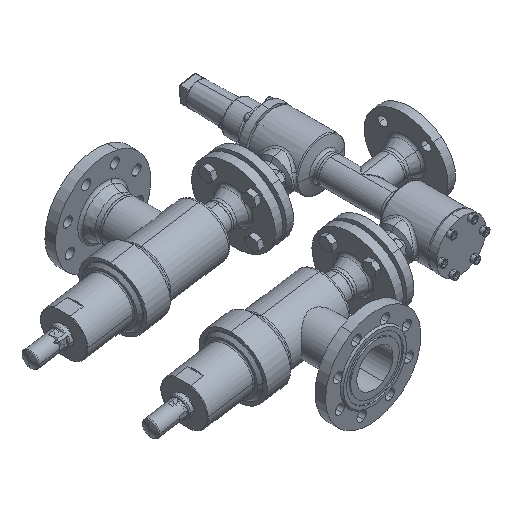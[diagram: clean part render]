
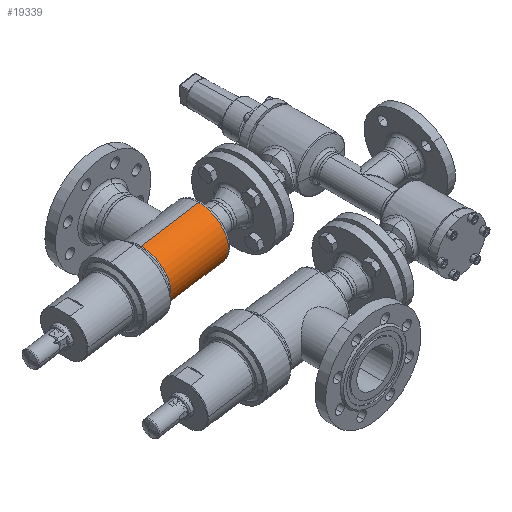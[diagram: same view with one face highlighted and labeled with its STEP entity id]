
A CAD part, isometric view. The second image highlights one B-rep face of the part: STEP entity #19339.
In plain terms, the highlighted cylindrical face has radius 50 mm (diameter 100 mm), a partial arc.
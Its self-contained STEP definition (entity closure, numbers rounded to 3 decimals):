
#811 = CARTESIAN_POINT ( 'NONE',  ( 50., 113.049, 0. ) ) ;
#17462 = CARTESIAN_POINT ( 'NONE',  ( 50., 0.883, 0. ) ) ;
#34705 = EDGE_CURVE ( 'NONE', #32480, #35177, #39997, .T. ) ;
#35177 = VERTEX_POINT ( 'NONE', #40349 ) ;
#19339 = ADVANCED_FACE ( 'NONE', ( #11153 ), #11202, .T. ) ;
#37056 = CIRCLE ( 'NONE', #37057, 50. ) ;
#37057 = AXIS2_PLACEMENT_3D ( 'NONE', #37058, #37059, #37060 ) ;
#37058 = CARTESIAN_POINT ( 'NONE',  ( 0., 0.883, 0. ) ) ;
#37059 = DIRECTION ( 'NONE',  ( 0., 1., 0. ) ) ;
#37060 = DIRECTION ( 'NONE',  ( -1., 0., 0. ) ) ;
#4316 = CIRCLE ( 'NONE', #4317, 50. ) ;
#4317 = AXIS2_PLACEMENT_3D ( 'NONE', #4318, #4319, #4320 ) ;
#4318 = CARTESIAN_POINT ( 'NONE',  ( 0., 113.049, 0. ) ) ;
#4319 = DIRECTION ( 'NONE',  ( 0., 1., 0. ) ) ;
#4320 = DIRECTION ( 'NONE',  ( -1., 0., 0. ) ) ;
#37095 = CARTESIAN_POINT ( 'NONE',  ( -50., 0.883, 0. ) ) ;
#37992 = EDGE_CURVE ( 'NONE', #46398, #40163, #48145, .T. ) ;
#7225 = EDGE_CURVE ( 'NONE', #40163, #35177, #4316, .T. ) ;
#39997 = LINE ( 'NONE', #39998, #39999 ) ;
#39998 = CARTESIAN_POINT ( 'NONE',  ( -50., 127.086, 0. ) ) ;
#39999 = VECTOR ( 'NONE', #40000, 1000. ) ;
#40000 = DIRECTION ( 'NONE',  ( 0., 1., 0. ) ) ;
#40163 = VERTEX_POINT ( 'NONE', #811 ) ;
#40349 = CARTESIAN_POINT ( 'NONE',  ( -50., 113.049, 0. ) ) ;
#8324 = ORIENTED_EDGE ( 'NONE', *, *, #32444, .T. ) ;
#11129 = ORIENTED_EDGE ( 'NONE', *, *, #34705, .T. ) ;
#11153 = FACE_OUTER_BOUND ( 'NONE', #29815, .T. ) ;
#11202 = CYLINDRICAL_SURFACE ( 'NONE', #11203, 50. ) ;
#11203 = AXIS2_PLACEMENT_3D ( 'NONE', #11204, #11205, #11206 ) ;
#11204 = CARTESIAN_POINT ( 'NONE',  ( 0., 127.086, 0. ) ) ;
#11205 = DIRECTION ( 'NONE',  ( 0., 1., 0. ) ) ;
#11206 = DIRECTION ( 'NONE',  ( -1., 0., 0. ) ) ;
#12989 = ORIENTED_EDGE ( 'NONE', *, *, #7225, .F. ) ;
#29815 = EDGE_LOOP ( 'NONE', ( #30692, #8324, #11129, #12989 ) ) ;
#46398 = VERTEX_POINT ( 'NONE', #17462 ) ;
#30692 = ORIENTED_EDGE ( 'NONE', *, *, #37992, .F. ) ;
#48145 = LINE ( 'NONE', #48146, #48187 ) ;
#48146 = CARTESIAN_POINT ( 'NONE',  ( 50., 127.086, 0. ) ) ;
#48187 = VECTOR ( 'NONE', #48188, 1000. ) ;
#48188 = DIRECTION ( 'NONE',  ( 0., 1., 0. ) ) ;
#32444 = EDGE_CURVE ( 'NONE', #46398, #32480, #37056, .T. ) ;
#32480 = VERTEX_POINT ( 'NONE', #37095 ) ;
